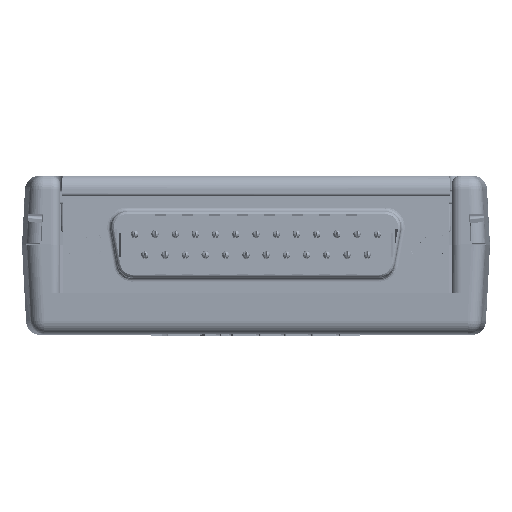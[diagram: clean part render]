
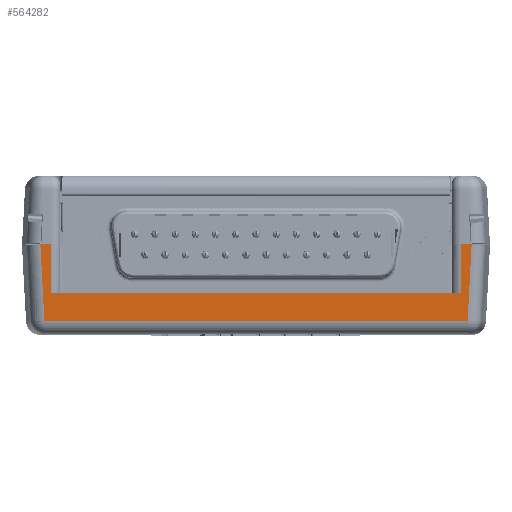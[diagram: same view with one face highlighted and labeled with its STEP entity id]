
A CAD part, top view. The second image highlights one B-rep face of the part: STEP entity #564282.
In plain terms, the highlighted planar face has unit normal (0, -0.052, 0.999).
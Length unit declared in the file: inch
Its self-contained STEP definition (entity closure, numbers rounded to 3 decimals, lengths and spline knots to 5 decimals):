
#24640 = FACE_OUTER_BOUND ( 'NONE', #624982, .T. ) ;
#26029 = ORIENTED_EDGE ( 'NONE', *, *, #440440, .F. ) ;
#29457 = EDGE_CURVE ( 'NONE', #117895, #680385, #103306, .T. ) ;
#42335 = VERTEX_POINT ( 'NONE', #647705 ) ;
#64308 = DIRECTION ( 'NONE',  ( 1., 0., 0. ) ) ;
#79058 = DIRECTION ( 'NONE',  ( 0., -0.052, 0.999 ) ) ;
#103306 = LINE ( 'NONE', #399045, #426563 ) ;
#114958 = LINE ( 'NONE', #449709, #263481 ) ;
#115435 = LINE ( 'NONE', #410487, #281543 ) ;
#117895 = VERTEX_POINT ( 'NONE', #522677 ) ;
#122797 = DIRECTION ( 'NONE',  ( 1., 0., 0. ) ) ;
#130509 = EDGE_CURVE ( 'NONE', #42335, #565601, #115435, .T. ) ;
#149160 = ORIENTED_EDGE ( 'NONE', *, *, #29457, .T. ) ;
#189144 = CARTESIAN_POINT ( 'NONE',  ( -0.09654, 0.07107, -0.02164 ) ) ;
#194577 = CARTESIAN_POINT ( 'NONE',  ( -0.1325, 0.224, -0.01363 ) ) ;
#196203 = VECTOR ( 'NONE', #563979, 39.37008 ) ;
#222349 = DIRECTION ( 'NONE',  ( 0., 0.999, 0.052 ) ) ;
#228630 = LINE ( 'NONE', #548849, #535323 ) ;
#237097 = LINE ( 'NONE', #513943, #622541 ) ;
#263481 = VECTOR ( 'NONE', #222349, 39.37008 ) ;
#275534 = CARTESIAN_POINT ( 'NONE',  ( -0.05012, 0.484, 0. ) ) ;
#281543 = VECTOR ( 'NONE', #694197, 39.37008 ) ;
#326530 = LINE ( 'NONE', #657412, #702674 ) ;
#329897 = ORIENTED_EDGE ( 'NONE', *, *, #591657, .T. ) ;
#337491 = VERTEX_POINT ( 'NONE', #623126 ) ;
#344845 = LINE ( 'NONE', #275534, #196203 ) ;
#361236 = ORIENTED_EDGE ( 'NONE', *, *, #375593, .T. ) ;
#375138 = VECTOR ( 'NONE', #512363, 39.37008 ) ;
#375593 = EDGE_CURVE ( 'NONE', #42335, #419347, #646939, .T. ) ;
#399045 = CARTESIAN_POINT ( 'NONE',  ( -0.02537, 0.07107, -0.02164 ) ) ;
#410487 = CARTESIAN_POINT ( 'NONE',  ( -0.05012, 0.484, 0. ) ) ;
#419347 = VERTEX_POINT ( 'NONE', #194577 ) ;
#425528 = ORIENTED_EDGE ( 'NONE', *, *, #608800, .T. ) ;
#426563 = VECTOR ( 'NONE', #64308, 39.37008 ) ;
#437147 = DIRECTION ( 'NONE',  ( 0.052, -0.997, -0.052 ) ) ;
#440440 = EDGE_CURVE ( 'NONE', #579592, #419347, #237097, .T. ) ;
#449709 = CARTESIAN_POINT ( 'NONE',  ( -2.3445, 0.484, 0. ) ) ;
#460977 = CARTESIAN_POINT ( 'NONE',  ( -0.1325, 0.484, 0. ) ) ;
#472541 = CARTESIAN_POINT ( 'NONE',  ( -0.05012, 0.484, 0. ) ) ;
#495024 = DIRECTION ( 'NONE',  ( 0.052, 0.997, 0.052 ) ) ;
#499327 = EDGE_CURVE ( 'NONE', #619229, #337491, #344845, .T. ) ;
#509749 = ORIENTED_EDGE ( 'NONE', *, *, #130509, .F. ) ;
#512363 = DIRECTION ( 'NONE',  ( 0., -0.999, -0.052 ) ) ;
#513943 = CARTESIAN_POINT ( 'NONE',  ( -2.2945, 0.224, -0.01363 ) ) ;
#522677 = CARTESIAN_POINT ( 'NONE',  ( -2.38046, 0.07107, -0.02164 ) ) ;
#528816 = PLANE ( 'NONE',  #653732 ) ;
#535323 = VECTOR ( 'NONE', #495024, 39.37008 ) ;
#538974 = EDGE_CURVE ( 'NONE', #680385, #565601, #228630, .T. ) ;
#548849 = CARTESIAN_POINT ( 'NONE',  ( -0.07483, 0.48529, 0.00007 ) ) ;
#563979 = DIRECTION ( 'NONE',  ( 1., 0., 0. ) ) ;
#564282 = ADVANCED_FACE ( 'NONE', ( #24640 ), #528816, .T. ) ;
#565601 = VERTEX_POINT ( 'NONE', #722430 ) ;
#579592 = VERTEX_POINT ( 'NONE', #656637 ) ;
#591657 = EDGE_CURVE ( 'NONE', #619229, #117895, #326530, .T. ) ;
#608800 = EDGE_CURVE ( 'NONE', #579592, #337491, #114958, .T. ) ;
#619229 = VERTEX_POINT ( 'NONE', #629644 ) ;
#622541 = VECTOR ( 'NONE', #122797, 39.37008 ) ;
#623126 = CARTESIAN_POINT ( 'NONE',  ( -2.3445, 0.484, 0. ) ) ;
#624982 = EDGE_LOOP ( 'NONE', ( #509749, #361236, #26029, #425528, #698120, #329897, #149160, #654183 ) ) ;
#629644 = CARTESIAN_POINT ( 'NONE',  ( -2.4021, 0.484, 0. ) ) ;
#636566 = DIRECTION ( 'NONE',  ( 0., -0.999, -0.052 ) ) ;
#646939 = LINE ( 'NONE', #460977, #375138 ) ;
#647705 = CARTESIAN_POINT ( 'NONE',  ( -0.1325, 0.484, 0. ) ) ;
#653732 = AXIS2_PLACEMENT_3D ( 'NONE', #472541, #79058, #636566 ) ;
#654183 = ORIENTED_EDGE ( 'NONE', *, *, #538974, .T. ) ;
#656637 = CARTESIAN_POINT ( 'NONE',  ( -2.3445, 0.224, -0.01363 ) ) ;
#657412 = CARTESIAN_POINT ( 'NONE',  ( -2.39568, 0.36141, -0.00642 ) ) ;
#680385 = VERTEX_POINT ( 'NONE', #189144 ) ;
#694197 = DIRECTION ( 'NONE',  ( 1., 0., 0. ) ) ;
#698120 = ORIENTED_EDGE ( 'NONE', *, *, #499327, .F. ) ;
#702674 = VECTOR ( 'NONE', #437147, 39.37008 ) ;
#722430 = CARTESIAN_POINT ( 'NONE',  ( -0.0749, 0.484, 0. ) ) ;
